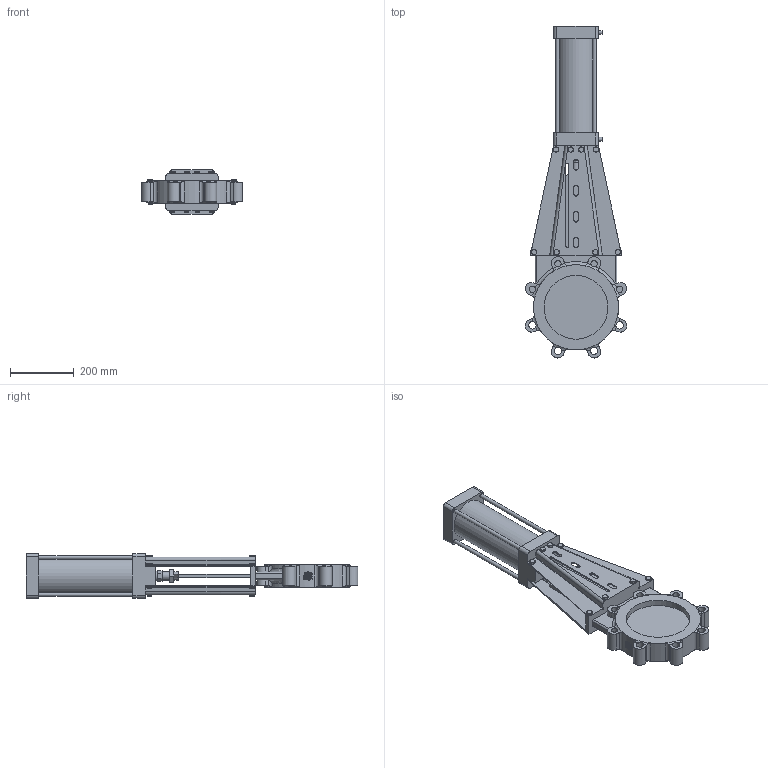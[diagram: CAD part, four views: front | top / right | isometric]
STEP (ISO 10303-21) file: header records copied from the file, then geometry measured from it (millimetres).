
FILE_DESCRIPTION(('STEP AP242'), '1');
FILE_NAME('GVKR1331M-1W-Fb-2P Çàäâèæêà øèáåðíàÿ ñ âûäâèæíûì øòîêîì DN.ru Äó200 Ðó10', '2026-05-25T21:23:22', ('R2D2'), (''), 'C3D Converter', 'C3D Toolkit', '');
FILE_SCHEMA(('AP242_MANAGED_MODEL_BASED_3D_ENGINEERING_MIM_LF { 1 0 10303 442 1 1 4 }'));
Length unit declared in the file: millimetre
Products named in the file (1): GVKR1331M-1W-Fb-2P
Bounding box: 317.13 x 1038.56 x 140 mm (x, y, z)
Volume: 10575304 mm3; surface area: 1008326 mm2
Topology: 1 solids, 1 shells, 885 faces, 2279 edges, 1430 vertices
Faces by surface type: plane 465, cylinder 158, extrusion 139, cone 96, torus 25, bspline 2
Full cylindrical faces by diameter (mm): 12 x6, 13 x8, 16 x8, 19.8 x2, 20 x8, 23 x4, 27 x1, 32 x1, 125 x1, 200 x2
Entity records: 51906 total; most frequent: CARTESIAN_POINT 24267, ORIENTED_EDGE 4476, DIRECTION 3766, EDGE_CURVE 2238, VERTEX_POINT 1430, AXIS2_PLACEMENT_3D 1291, VECTOR 1184, LINE 1045
